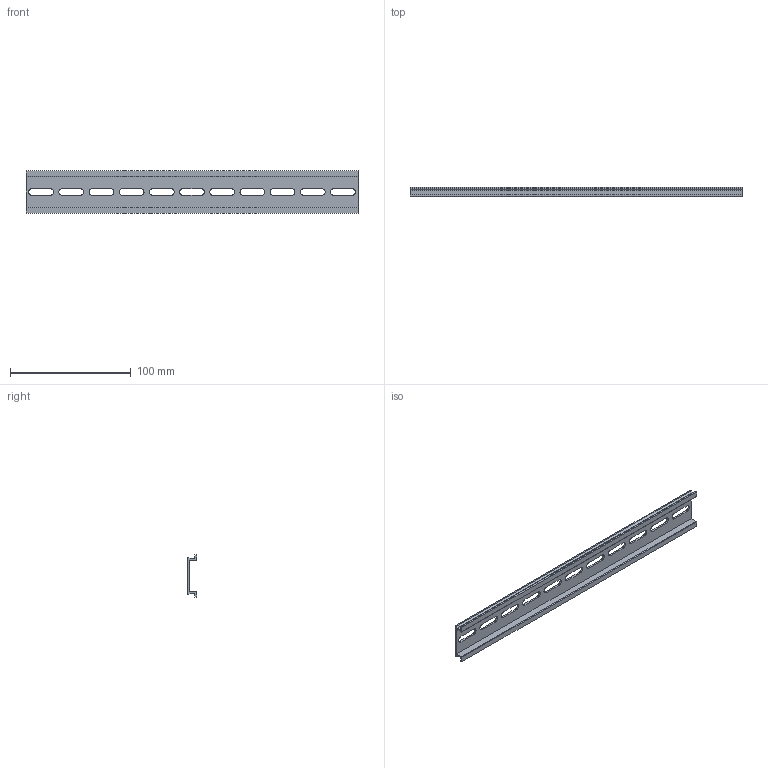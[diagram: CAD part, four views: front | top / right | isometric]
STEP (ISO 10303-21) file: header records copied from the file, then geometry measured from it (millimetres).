
FILE_DESCRIPTION( (''), '2;1');
FILE_NAME ('CVICAD02.15516.DIN-RAIL275_7374.stp','2020-09-01T14:18:18',(''),(''),'spGate 12.6.6','','');
FILE_SCHEMA (('AUTOMOTIVE_DESIGN'));
Length unit declared in the file: millimetre
Bounding box: 275 x 7.5 x 35 mm (x, y, z)
Volume: 19415 mm3; surface area: 26012.6 mm2
Topology: 1 solids, 1 shells, 64 faces, 186 edges, 124 vertices
Faces by surface type: plane 40, cylinder 24
Entity records: 3621 total; most frequent: CARTESIAN_POINT 374, ORIENTED_EDGE 372, DIRECTION 362, COLOUR_RGB 251, PRESENTATION_STYLE_ASSIGNMENT 251, STYLED_ITEM 251, EDGE_CURVE 186, DRAUGHTING_PRE_DEFINED_CURVE_FONT 186
